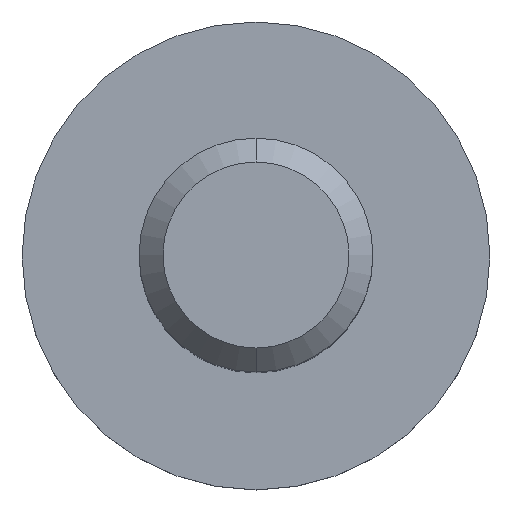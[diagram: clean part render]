
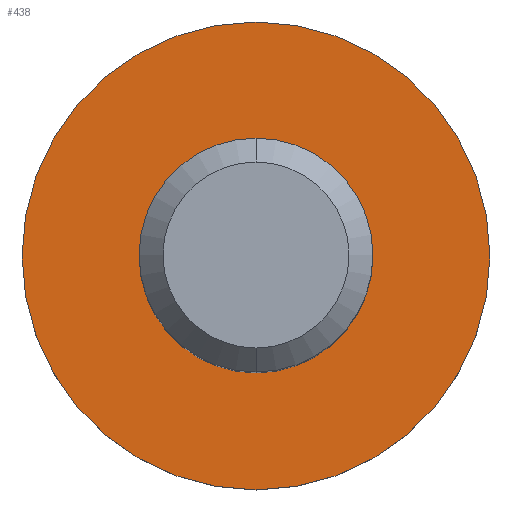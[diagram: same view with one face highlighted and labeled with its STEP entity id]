
A CAD part, top view. The second image highlights one B-rep face of the part: STEP entity #438.
In plain terms, the highlighted planar face has unit normal (0, 0, 1).
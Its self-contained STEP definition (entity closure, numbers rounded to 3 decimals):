
#123=CARTESIAN_POINT('',(0.,0.,-4.3));
#124=DIRECTION('',(0.,0.,-1.));
#125=DIRECTION('',(0.,1.,0.));
#126=AXIS2_PLACEMENT_3D('',#123,#124,#125);
#128=CARTESIAN_POINT('',(0.,0.,-4.3));
#129=DIRECTION('',(0.,0.,1.));
#130=DIRECTION('',(0.,1.,0.));
#131=AXIS2_PLACEMENT_3D('',#128,#129,#130);
#133=CARTESIAN_POINT('',(0.,0.,-4.3));
#134=DIRECTION('',(0.,0.,1.));
#135=DIRECTION('',(0.,1.,0.));
#136=AXIS2_PLACEMENT_3D('',#133,#134,#135);
#142=CARTESIAN_POINT('',(0.,0.,-4.3));
#143=DIRECTION('',(0.,0.,-1.));
#144=DIRECTION('',(0.,1.,0.));
#145=AXIS2_PLACEMENT_3D('',#142,#143,#144);
#190=CARTESIAN_POINT('',(0.,1.95,-4.3));
#192=VERTEX_POINT('',#190);
#193=CARTESIAN_POINT('',(0.,0.975,-4.3));
#195=VERTEX_POINT('',#193);
#214=CARTESIAN_POINT('',(0.,-1.95,-4.3));
#216=VERTEX_POINT('',#214);
#217=CARTESIAN_POINT('',(0.,-0.975,-4.3));
#219=VERTEX_POINT('',#217);
#423=CARTESIAN_POINT('',(0.,0.,-4.3));
#424=DIRECTION('',(0.,0.,1.));
#425=DIRECTION('',(0.,1.,0.));
#426=AXIS2_PLACEMENT_3D('',#423,#424,#425);
#427=PLANE('',#426);
#428=ORIENTED_EDGE('',*,*,#418,.T.);
#429=ORIENTED_EDGE('',*,*,#402,.F.);
#430=EDGE_LOOP('',(#428,#429));
#431=FACE_OUTER_BOUND('',#430,.F.);
#433=ORIENTED_EDGE('',*,*,#432,.T.);
#435=ORIENTED_EDGE('',*,*,#434,.F.);
#436=EDGE_LOOP('',(#433,#435));
#437=FACE_BOUND('',#436,.F.);
#438=ADVANCED_FACE('',(#431,#437),#427,.T.);
#127=CIRCLE('',#126,1.95);
#132=CIRCLE('',#131,1.95);
#137=CIRCLE('',#136,0.975);
#146=CIRCLE('',#145,0.975);
#402=EDGE_CURVE('',#192,#216,#132,.T.);
#418=EDGE_CURVE('',#192,#216,#127,.T.);
#432=EDGE_CURVE('',#195,#219,#137,.T.);
#434=EDGE_CURVE('',#195,#219,#146,.T.);
